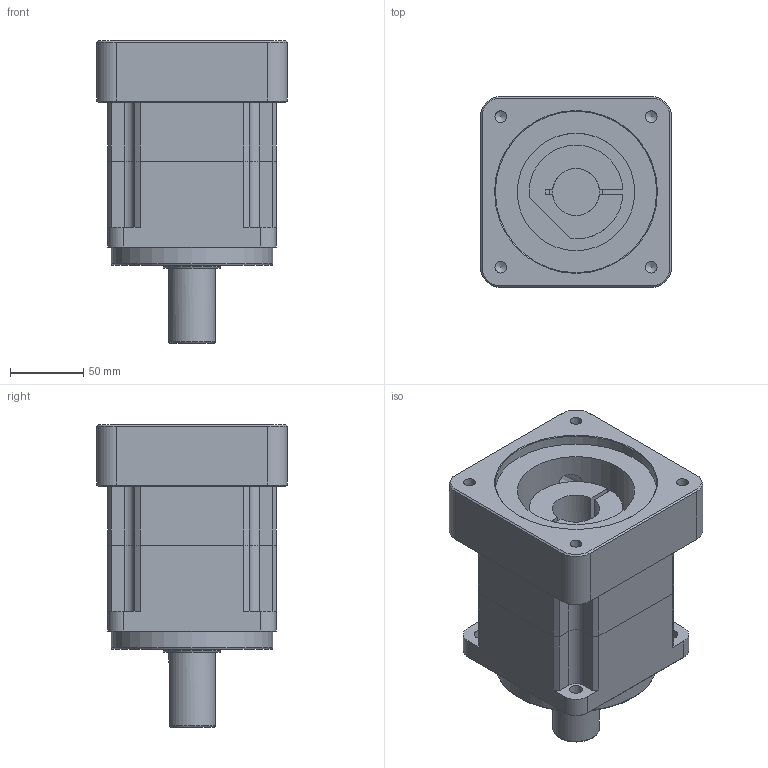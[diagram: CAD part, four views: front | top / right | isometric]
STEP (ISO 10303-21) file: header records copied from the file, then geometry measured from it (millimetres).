
FILE_DESCRIPTION((''),'2;1');
FILE_NAME('D:\김낙유\재익다운\유성\잡\홈페이지\SPI115 1단\SPI115 1단.stp','2010-09-28T13:17:44',('augold'),(''),'Autodesk Inventor 2010','Autodesk Inventor 2010','');
FILE_SCHEMA(('AUTOMOTIVE_DESIGN { 1 0 10303 214 1 1 1 1 }'));
Length unit declared in the file: millimetre
Products named in the file (4): SPI115 1단; SPI115 OUT; SPI115 IN; SPI115 FLANGE
Assembly tree (3 placements, depth 2):
  SPI115 1단
    SPI115 OUT
    SPI115 IN
    SPI115 FLANGE
Bounding box: 130 x 130 x 206 mm (x, y, z)
Volume: 1816938.2 mm3; surface area: 175230.3 mm2
Topology: 3 solids, 3 shells, 144 faces, 376 edges, 242 vertices
Faces by surface type: plane 66, cylinder 41, bspline 20, cone 14, torus 3
Full cylindrical faces by diameter (mm): 32 x2, 36 x1, 39.5 x1, 80 x1, 110 x1
Entity records: 4546 total; most frequent: CARTESIAN_POINT 1077, DIRECTION 715, ORIENTED_EDGE 662, EDGE_CURVE 331, AXIS2_PLACEMENT_3D 258, VERTEX_POINT 224, VECTOR 199, LINE 199
